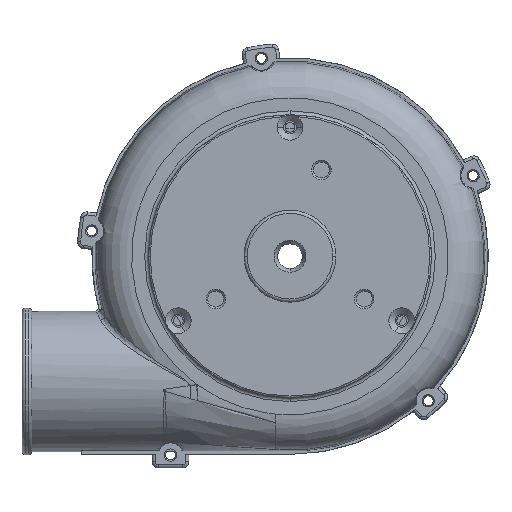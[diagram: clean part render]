
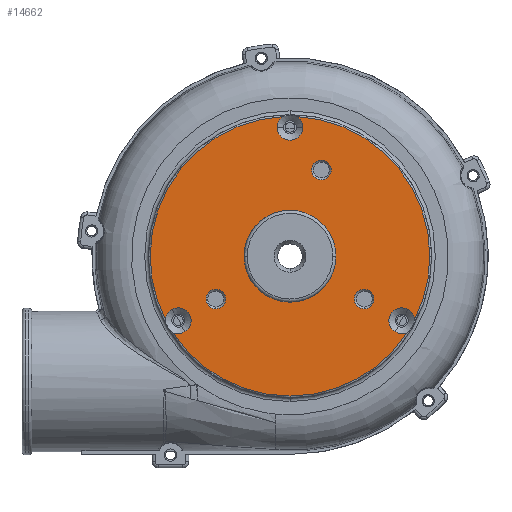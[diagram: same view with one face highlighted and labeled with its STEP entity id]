
A CAD part, front view. The second image highlights one B-rep face of the part: STEP entity #14662.
In plain terms, the highlighted planar face has unit normal (0, -1, 0).
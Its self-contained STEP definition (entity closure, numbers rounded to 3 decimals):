
#11561=CARTESIAN_POINT('',(0.,0.,0.));
#11562=DIRECTION('',(0.,-1.,0.));
#11563=DIRECTION('',(1.,0.,0.));
#11564=AXIS2_PLACEMENT_3D('',#11561,#11562,#11563);
#11570=CARTESIAN_POINT('',(0.,0.,0.));
#11571=DIRECTION('',(0.,-1.,0.));
#11572=DIRECTION('',(-1.,0.,0.));
#11573=AXIS2_PLACEMENT_3D('',#11570,#11571,#11572);
#11578=CARTESIAN_POINT('',(18.251,0.,10.538));
#11579=DIRECTION('',(0.,-1.,0.));
#11580=DIRECTION('',(0.5,0.,-0.866));
#11581=AXIS2_PLACEMENT_3D('',#11578,#11579,#11580);
#11586=CARTESIAN_POINT('',(0.,0.,0.));
#11587=DIRECTION('',(0.,1.,0.));
#11588=DIRECTION('',(0.89,0.,0.455));
#11589=AXIS2_PLACEMENT_3D('',#11586,#11587,#11588);
#11594=CARTESIAN_POINT('',(0.,0.,0.));
#11595=DIRECTION('',(0.,1.,0.));
#11596=DIRECTION('',(1.,0.,0.));
#11597=AXIS2_PLACEMENT_3D('',#11594,#11595,#11596);
#11602=CARTESIAN_POINT('',(0.,0.,-21.075));
#11603=DIRECTION('',(0.,-1.,0.));
#11604=DIRECTION('',(0.556,0.,-0.831));
#11605=AXIS2_PLACEMENT_3D('',#11602,#11603,#11604);
#11610=CARTESIAN_POINT('',(0.,0.,-21.075));
#11611=DIRECTION('',(0.,-1.,0.));
#11612=DIRECTION('',(1.,0.,0.));
#11613=AXIS2_PLACEMENT_3D('',#11610,#11611,#11612);
#11618=CARTESIAN_POINT('',(0.,0.,-21.075));
#11619=DIRECTION('',(0.,-1.,0.));
#11620=DIRECTION('',(-1.,0.,0.));
#11621=AXIS2_PLACEMENT_3D('',#11618,#11619,#11620);
#11626=CARTESIAN_POINT('',(0.,0.,0.));
#11627=DIRECTION('',(0.,1.,0.));
#11628=DIRECTION('',(-0.051,0.,-0.999));
#11629=AXIS2_PLACEMENT_3D('',#11626,#11627,#11628);
#11634=CARTESIAN_POINT('',(0.,0.,0.));
#11635=DIRECTION('',(0.,1.,0.));
#11636=DIRECTION('',(-1.,0.,0.));
#11637=AXIS2_PLACEMENT_3D('',#11634,#11635,#11636);
#11642=CARTESIAN_POINT('',(-18.251,0.,10.538));
#11643=DIRECTION('',(0.,-1.,0.));
#11644=DIRECTION('',(-0.998,0.,-0.066));
#11645=AXIS2_PLACEMENT_3D('',#11642,#11643,#11644);
#11650=CARTESIAN_POINT('',(-18.251,0.,10.538));
#11651=DIRECTION('',(0.,-1.,0.));
#11652=DIRECTION('',(-0.5,0.,-0.866));
#11653=AXIS2_PLACEMENT_3D('',#11650,#11651,#11652);
#11658=CARTESIAN_POINT('',(-18.251,0.,10.538));
#11659=DIRECTION('',(0.,-1.,0.));
#11660=DIRECTION('',(0.5,0.,0.866));
#11661=AXIS2_PLACEMENT_3D('',#11658,#11659,#11660);
#11666=CARTESIAN_POINT('',(0.,0.,0.));
#11667=DIRECTION('',(0.,1.,0.));
#11668=DIRECTION('',(-0.839,0.,0.544));
#11669=AXIS2_PLACEMENT_3D('',#11666,#11667,#11668);
#11674=CARTESIAN_POINT('',(18.251,0.,10.538));
#11675=DIRECTION('',(0.,-1.,0.));
#11676=DIRECTION('',(0.442,0.,0.897));
#11677=AXIS2_PLACEMENT_3D('',#11674,#11675,#11676);
#11682=CARTESIAN_POINT('',(18.251,0.,10.538));
#11683=DIRECTION('',(0.,-1.,0.));
#11684=DIRECTION('',(-0.5,0.,0.866));
#11685=AXIS2_PLACEMENT_3D('',#11682,#11683,#11684);
#11690=CARTESIAN_POINT('',(12.124,0.,7.));
#11691=DIRECTION('',(0.,1.,0.));
#11692=DIRECTION('',(0.,0.,-1.));
#11693=AXIS2_PLACEMENT_3D('',#11690,#11691,#11692);
#11698=CARTESIAN_POINT('',(12.124,0.,7.));
#11699=DIRECTION('',(0.,1.,0.));
#11700=DIRECTION('',(0.,0.,1.));
#11701=AXIS2_PLACEMENT_3D('',#11698,#11699,#11700);
#11706=CARTESIAN_POINT('',(-5.129,0.,-14.096));
#11707=DIRECTION('',(0.,1.,0.));
#11708=DIRECTION('',(0.,0.,-1.));
#11709=AXIS2_PLACEMENT_3D('',#11706,#11707,#11708);
#11714=CARTESIAN_POINT('',(-5.129,0.,-14.096));
#11715=DIRECTION('',(0.,1.,0.));
#11716=DIRECTION('',(0.,0.,1.));
#11717=AXIS2_PLACEMENT_3D('',#11714,#11715,#11716);
#11722=CARTESIAN_POINT('',(-12.124,0.,7.));
#11723=DIRECTION('',(0.,1.,0.));
#11724=DIRECTION('',(0.,0.,-1.));
#11725=AXIS2_PLACEMENT_3D('',#11722,#11723,#11724);
#11730=CARTESIAN_POINT('',(-12.124,0.,7.));
#11731=DIRECTION('',(0.,1.,0.));
#11732=DIRECTION('',(0.,0.,1.));
#11733=AXIS2_PLACEMENT_3D('',#11730,#11731,#11732);
#14218=CARTESIAN_POINT('',(7.5,0.,0.));
#14219=CARTESIAN_POINT('',(-7.5,0.,0.));
#14220=VERTEX_POINT('',#14218);
#14221=VERTEX_POINT('',#14219);
#14447=CARTESIAN_POINT('',(22.85,0.,0.));
#14448=VERTEX_POINT('',#14447);
#14449=CARTESIAN_POINT('',(-22.85,0.,0.));
#14450=VERTEX_POINT('',#14449);
#14451=CARTESIAN_POINT('',(-17.201,0.,12.356));
#14452=CARTESIAN_POINT('',(-19.179,0.,12.422));
#14453=VERTEX_POINT('',#14451);
#14454=VERTEX_POINT('',#14452);
#14455=CARTESIAN_POINT('',(-20.347,0.,10.398));
#14456=CARTESIAN_POINT('',(-19.301,0.,8.719));
#14457=VERTEX_POINT('',#14455);
#14458=VERTEX_POINT('',#14456);
#14459=CARTESIAN_POINT('',(-2.1,0.,-21.075));
#14460=CARTESIAN_POINT('',(-1.168,0.,-22.82));
#14461=VERTEX_POINT('',#14459);
#14462=VERTEX_POINT('',#14460);
#14463=CARTESIAN_POINT('',(1.168,0.,-22.82));
#14464=CARTESIAN_POINT('',(2.1,0.,-21.075));
#14465=VERTEX_POINT('',#14463);
#14466=VERTEX_POINT('',#14464);
#14467=CARTESIAN_POINT('',(19.301,0.,8.719));
#14468=CARTESIAN_POINT('',(20.347,0.,10.398));
#14469=VERTEX_POINT('',#14467);
#14470=VERTEX_POINT('',#14468);
#14471=CARTESIAN_POINT('',(19.179,0.,12.422));
#14472=CARTESIAN_POINT('',(17.201,0.,12.356));
#14473=VERTEX_POINT('',#14471);
#14474=VERTEX_POINT('',#14472);
#14579=CARTESIAN_POINT('',(12.124,0.,5.4));
#14580=CARTESIAN_POINT('',(12.124,0.,8.6));
#14581=VERTEX_POINT('',#14579);
#14582=VERTEX_POINT('',#14580);
#14587=CARTESIAN_POINT('',(-5.129,0.,-15.696));
#14588=CARTESIAN_POINT('',(-5.129,0.,-12.496));
#14589=VERTEX_POINT('',#14587);
#14590=VERTEX_POINT('',#14588);
#14595=CARTESIAN_POINT('',(-12.124,0.,5.4));
#14596=CARTESIAN_POINT('',(-12.124,0.,8.6));
#14597=VERTEX_POINT('',#14595);
#14598=VERTEX_POINT('',#14596);
#14603=CARTESIAN_POINT('',(0.,0.,0.));
#14604=DIRECTION('',(0.,1.,0.));
#14605=DIRECTION('',(1.,0.,0.));
#14606=AXIS2_PLACEMENT_3D('',#14603,#14604,#14605);
#14607=PLANE('',#14606);
#14609=ORIENTED_EDGE('',*,*,#14608,.T.);
#14611=ORIENTED_EDGE('',*,*,#14610,.T.);
#14613=ORIENTED_EDGE('',*,*,#14612,.T.);
#14615=ORIENTED_EDGE('',*,*,#14614,.T.);
#14617=ORIENTED_EDGE('',*,*,#14616,.T.);
#14619=ORIENTED_EDGE('',*,*,#14618,.T.);
#14621=ORIENTED_EDGE('',*,*,#14620,.T.);
#14623=ORIENTED_EDGE('',*,*,#14622,.T.);
#14625=ORIENTED_EDGE('',*,*,#14624,.T.);
#14627=ORIENTED_EDGE('',*,*,#14626,.T.);
#14629=ORIENTED_EDGE('',*,*,#14628,.T.);
#14631=ORIENTED_EDGE('',*,*,#14630,.T.);
#14633=ORIENTED_EDGE('',*,*,#14632,.T.);
#14635=ORIENTED_EDGE('',*,*,#14634,.T.);
#14636=EDGE_LOOP('',(#14609,#14611,#14613,#14615,#14617,#14619,#14621,#14623,
#14625,#14627,#14629,#14631,#14633,#14635));
#14637=FACE_OUTER_BOUND('',#14636,.F.);
#14639=ORIENTED_EDGE('',*,*,#14638,.T.);
#14641=ORIENTED_EDGE('',*,*,#14640,.T.);
#14642=EDGE_LOOP('',(#14639,#14641));
#14643=FACE_BOUND('',#14642,.F.);
#14645=ORIENTED_EDGE('',*,*,#14644,.F.);
#14647=ORIENTED_EDGE('',*,*,#14646,.F.);
#14648=EDGE_LOOP('',(#14645,#14647));
#14649=FACE_BOUND('',#14648,.F.);
#14651=ORIENTED_EDGE('',*,*,#14650,.F.);
#14653=ORIENTED_EDGE('',*,*,#14652,.F.);
#14654=EDGE_LOOP('',(#14651,#14653));
#14655=FACE_BOUND('',#14654,.F.);
#14657=ORIENTED_EDGE('',*,*,#14656,.F.);
#14659=ORIENTED_EDGE('',*,*,#14658,.F.);
#14660=EDGE_LOOP('',(#14657,#14659));
#14661=FACE_BOUND('',#14660,.F.);
#14662=ADVANCED_FACE('',(#14637,#14643,#14649,#14655,#14661),#14607,.F.);
#11565=CIRCLE('',#11564,7.5);
#11574=CIRCLE('',#11573,7.5);
#11582=CIRCLE('',#11581,2.1);
#11590=CIRCLE('',#11589,22.85);
#11598=CIRCLE('',#11597,22.85);
#11606=CIRCLE('',#11605,2.1);
#11614=CIRCLE('',#11613,2.1);
#11622=CIRCLE('',#11621,2.1);
#11630=CIRCLE('',#11629,22.85);
#11638=CIRCLE('',#11637,22.85);
#11646=CIRCLE('',#11645,2.1);
#11654=CIRCLE('',#11653,2.1);
#11662=CIRCLE('',#11661,2.1);
#11670=CIRCLE('',#11669,22.85);
#11678=CIRCLE('',#11677,2.1);
#11686=CIRCLE('',#11685,2.1);
#11694=CIRCLE('',#11693,1.6);
#11702=CIRCLE('',#11701,1.6);
#11710=CIRCLE('',#11709,1.6);
#11718=CIRCLE('',#11717,1.6);
#11726=CIRCLE('',#11725,1.6);
#11734=CIRCLE('',#11733,1.6);
#14608=EDGE_CURVE('',#14469,#14470,#11582,.T.);
#14610=EDGE_CURVE('',#14470,#14448,#11590,.T.);
#14612=EDGE_CURVE('',#14448,#14465,#11598,.T.);
#14614=EDGE_CURVE('',#14465,#14466,#11606,.T.);
#14616=EDGE_CURVE('',#14466,#14461,#11614,.T.);
#14618=EDGE_CURVE('',#14461,#14462,#11622,.T.);
#14620=EDGE_CURVE('',#14462,#14450,#11630,.T.);
#14622=EDGE_CURVE('',#14450,#14457,#11638,.T.);
#14624=EDGE_CURVE('',#14457,#14458,#11646,.T.);
#14626=EDGE_CURVE('',#14458,#14453,#11654,.T.);
#14628=EDGE_CURVE('',#14453,#14454,#11662,.T.);
#14630=EDGE_CURVE('',#14454,#14473,#11670,.T.);
#14632=EDGE_CURVE('',#14473,#14474,#11678,.T.);
#14634=EDGE_CURVE('',#14474,#14469,#11686,.T.);
#14638=EDGE_CURVE('',#14220,#14221,#11565,.T.);
#14640=EDGE_CURVE('',#14221,#14220,#11574,.T.);
#14644=EDGE_CURVE('',#14581,#14582,#11694,.T.);
#14646=EDGE_CURVE('',#14582,#14581,#11702,.T.);
#14650=EDGE_CURVE('',#14589,#14590,#11710,.T.);
#14652=EDGE_CURVE('',#14590,#14589,#11718,.T.);
#14656=EDGE_CURVE('',#14597,#14598,#11726,.T.);
#14658=EDGE_CURVE('',#14598,#14597,#11734,.T.);
